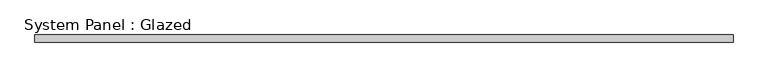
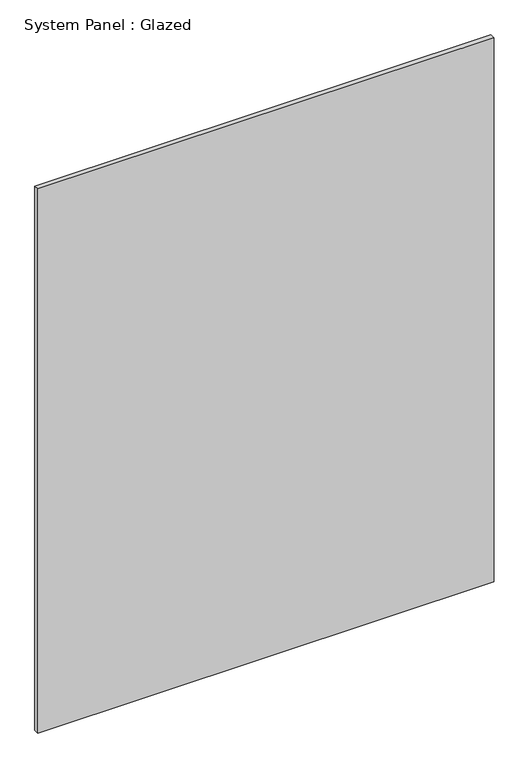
"""IFC4 building model written with IfcOpenShell, lengths in millimetres: plate geometry, System Panel : Glazed."""

from ifc_helpers import new_model, si_unit, origin, origin_with_axes, place, context, project, spatial, polyline, outline, extrude, source, transform, mapped, element, save


def system_panel_glazed_d08b41f0(model_context):
    return source(origin(), model_context, "Body", "SweptSolid", [
        extrude(outline(polyline([(1171.5750001, -44.45), (-1171.5750001, -44.45), (-1171.5750001, -19.05), (1171.5750001, -19.05), (1171.5750001, -44.45)])), origin_with_axes(), (0.0, 0.0, 1.0), 2952.75),
    ])


if __name__ == "__main__":
    model = new_model("IFC4")
    model_context = context("Model", 3, world=origin())
    ifc_project = project(units=[si_unit("LENGTHUNIT", "METRE", prefix="MILLI")], contexts=[model_context])
    site = spatial("IfcSite", under=ifc_project)
    building = spatial("IfcBuilding", under=site)
    placement = place(None, origin())
    system_panel_glazed_shape = system_panel_glazed_d08b41f0(model_context)
    element("IfcPlate", 1, ObjectType="System Panel : Glazed", at=placement, inside=building, context=model_context, shape_type="MappedRepresentation", body=[
        mapped(system_panel_glazed_shape, transform((0.0, 0.0, 0.0), x_axis=(1.0, 0.0, 0.0), y_axis=(0.0, 1.0, 0.0), z_axis=(0.0, 0.0, 1.0))),
    ])
    save(model, "model.ifc")
